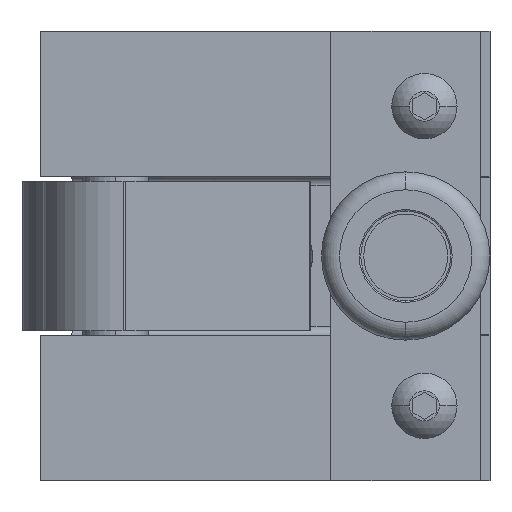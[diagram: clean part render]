
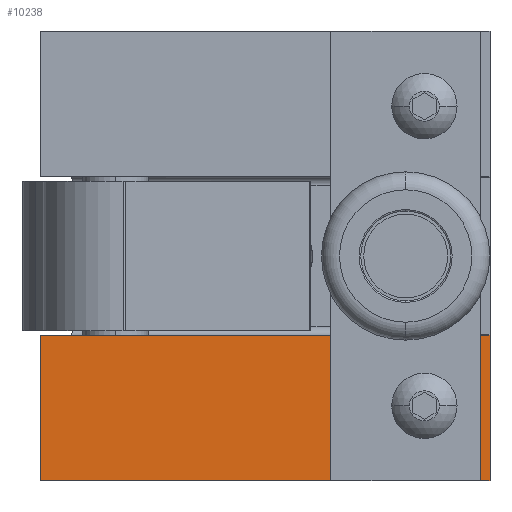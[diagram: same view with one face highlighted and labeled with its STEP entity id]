
A CAD part, left-side view. The second image highlights one B-rep face of the part: STEP entity #10238.
In plain terms, the highlighted planar face has unit normal (-1, 0, 0).
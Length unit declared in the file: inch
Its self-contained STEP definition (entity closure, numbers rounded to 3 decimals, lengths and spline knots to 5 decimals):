
#10184 = ORIENTED_EDGE ( 'NONE', *, *, #10185, .T. ) ;
#10185 = EDGE_CURVE ( 'NONE', #10205, #10186, #27643, .T. ) ;
#10186 = VERTEX_POINT ( 'NONE', #27649 ) ;
#10187 = ORIENTED_EDGE ( 'NONE', *, *, #10188, .T. ) ;
#10188 = EDGE_CURVE ( 'NONE', #10186, #10202, #27650, .T. ) ;
#10202 = VERTEX_POINT ( 'NONE', #27736 ) ;
#10203 = ORIENTED_EDGE ( 'NONE', *, *, #10204, .F. ) ;
#10204 = EDGE_CURVE ( 'NONE', #10205, #10249, #27750, .T. ) ;
#10205 = VERTEX_POINT ( 'NONE', #27717 ) ;
#10236 = EDGE_LOOP ( 'NONE', ( #10239, #10244 ) ) ;
#10238 = ADVANCED_FACE ( 'NONE', ( #27833, #27837 ), #27808, .T. ) ;
#10239 = ORIENTED_EDGE ( 'NONE', *, *, #10240, .F. ) ;
#10240 = EDGE_CURVE ( 'NONE', #10241, #10242, #27905, .T. ) ;
#10241 = VERTEX_POINT ( 'NONE', #27906 ) ;
#10242 = VERTEX_POINT ( 'NONE', #27879 ) ;
#10244 = ORIENTED_EDGE ( 'NONE', *, *, #10245, .F. ) ;
#10245 = EDGE_CURVE ( 'NONE', #10242, #10241, #27864, .T. ) ;
#10246 = EDGE_LOOP ( 'NONE', ( #10247, #10203, #10184, #10187 ) ) ;
#10247 = ORIENTED_EDGE ( 'NONE', *, *, #10248, .F. ) ;
#10248 = EDGE_CURVE ( 'NONE', #10249, #10202, #27882, .T. ) ;
#10249 = VERTEX_POINT ( 'NONE', #27884 ) ;
#27643 = LINE ( 'NONE', #27648, #27646 ) ;
#27645 = DIRECTION ( 'NONE',  ( 0., -1., 0. ) ) ;
#27646 = VECTOR ( 'NONE', #27645, 39.37008 ) ;
#27648 = CARTESIAN_POINT ( 'NONE',  ( -2.42119, -1.60181, -1.20857 ) ) ;
#27649 = CARTESIAN_POINT ( 'NONE',  ( -2.42119, -1.60181, -1.20857 ) ) ;
#27650 = LINE ( 'NONE', #27668, #27667 ) ;
#27666 = DIRECTION ( 'NONE',  ( 0., 0., 1. ) ) ;
#27667 = VECTOR ( 'NONE', #27666, 39.37008 ) ;
#27668 = CARTESIAN_POINT ( 'NONE',  ( -2.42119, -1.60181, -1.20857 ) ) ;
#27717 = CARTESIAN_POINT ( 'NONE',  ( -2.42119, 1.39819, -1.20857 ) ) ;
#27718 = DIRECTION ( 'NONE',  ( 0., 0., 1. ) ) ;
#27719 = VECTOR ( 'NONE', #27718, 39.37008 ) ;
#27736 = CARTESIAN_POINT ( 'NONE',  ( -2.42119, -1.60181, -0.23857 ) ) ;
#27749 = CARTESIAN_POINT ( 'NONE',  ( -2.42119, 1.39819, -1.20857 ) ) ;
#27750 = LINE ( 'NONE', #27749, #27719 ) ;
#27808 = PLANE ( 'NONE',  #27846 ) ;
#27822 = DIRECTION ( 'NONE',  ( 0., 0., 1. ) ) ;
#27823 = DIRECTION ( 'NONE',  ( -1., 0., 0. ) ) ;
#27824 = CARTESIAN_POINT ( 'NONE',  ( -2.42119, -1.60181, -1.20857 ) ) ;
#27833 = FACE_BOUND ( 'NONE', #10236, .T. ) ;
#27837 = FACE_OUTER_BOUND ( 'NONE', #10246, .T. ) ;
#27846 = AXIS2_PLACEMENT_3D ( 'NONE', #27824, #27823, #27822 ) ;
#27859 = DIRECTION ( 'NONE',  ( -1., 0., 0. ) ) ;
#27860 = CARTESIAN_POINT ( 'NONE',  ( -2.42119, -1.16381, -0.70857 ) ) ;
#27861 = AXIS2_PLACEMENT_3D ( 'NONE', #27860, #27859, #27883 ) ;
#27862 = CARTESIAN_POINT ( 'NONE',  ( -2.42119, -1.60181, -0.23857 ) ) ;
#27864 = CIRCLE ( 'NONE', #27861, 0.125 ) ;
#27879 = CARTESIAN_POINT ( 'NONE',  ( -2.42119, -1.16381, -0.83357 ) ) ;
#27880 = DIRECTION ( 'NONE',  ( 0., 0., 1. ) ) ;
#27882 = LINE ( 'NONE', #27862, #27886 ) ;
#27883 = DIRECTION ( 'NONE',  ( 0., 0., 1. ) ) ;
#27884 = CARTESIAN_POINT ( 'NONE',  ( -2.42119, 1.39819, -0.23857 ) ) ;
#27885 = DIRECTION ( 'NONE',  ( 0., -1., 0. ) ) ;
#27886 = VECTOR ( 'NONE', #27885, 39.37008 ) ;
#27903 = DIRECTION ( 'NONE',  ( -1., 0., 0. ) ) ;
#27904 = AXIS2_PLACEMENT_3D ( 'NONE', #27927, #27903, #27880 ) ;
#27905 = CIRCLE ( 'NONE', #27904, 0.125 ) ;
#27906 = CARTESIAN_POINT ( 'NONE',  ( -2.42119, -1.16381, -0.58357 ) ) ;
#27927 = CARTESIAN_POINT ( 'NONE',  ( -2.42119, -1.16381, -0.70857 ) ) ;
